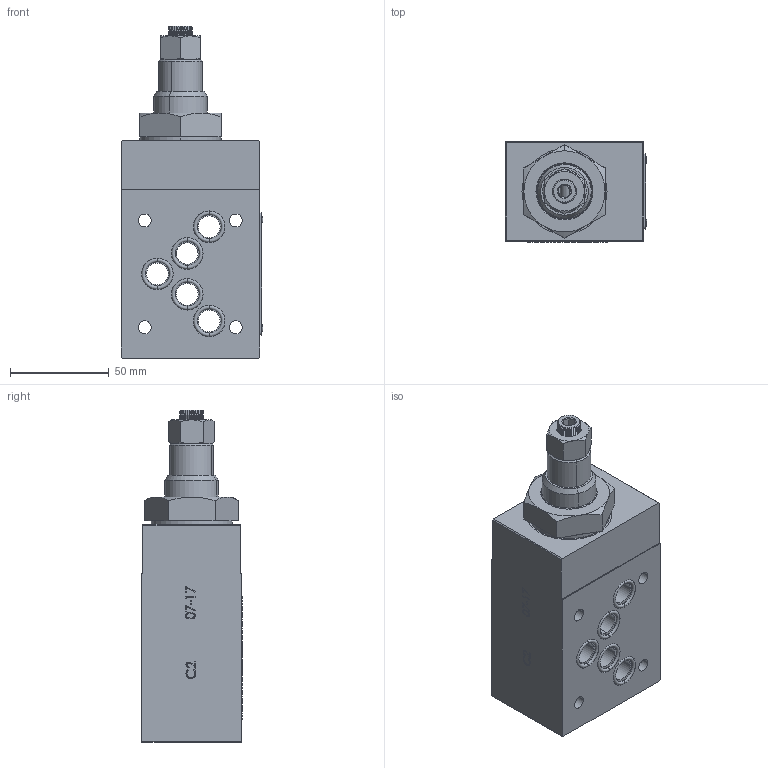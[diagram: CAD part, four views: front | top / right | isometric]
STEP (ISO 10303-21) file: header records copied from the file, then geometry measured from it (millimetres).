
FILE_DESCRIPTION (( 'STEP AP214' ), '1' );
FILE_NAME ('358-5-A-05.STEP', '2019-12-04T08:47:49', ( '' ), ( '' ), 'SwSTEP 2.0', 'SolidWorks 2018', '' );
FILE_SCHEMA (( 'AUTOMOTIVE_DESIGN' ));
Length unit declared in the file: millimetre
Products named in the file (1): 358-5-A-05
Bounding box: 71.66 x 50.58 x 167.8 mm (x, y, z)
Surface area: 54622.6 mm2 (no closed solid volume)
Topology: 0 solids, 49 shells, 631 faces, 3168 edges, 2511 vertices
Faces by surface type: plane 339, bspline 102, cylinder 93, cone 69, torus 20, sphere 8
Entity records: 51233 total; most frequent: CARTESIAN_POINT 21464, ORIENTED_EDGE 4237, DIRECTION 3833, EDGE_CURVE 3168, VERTEX_POINT 2511, LINE 2035, VECTOR 2035, AXIS2_PLACEMENT_3D 899
